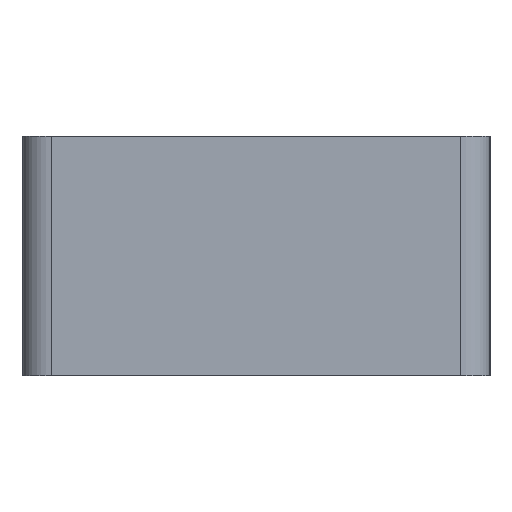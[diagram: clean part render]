
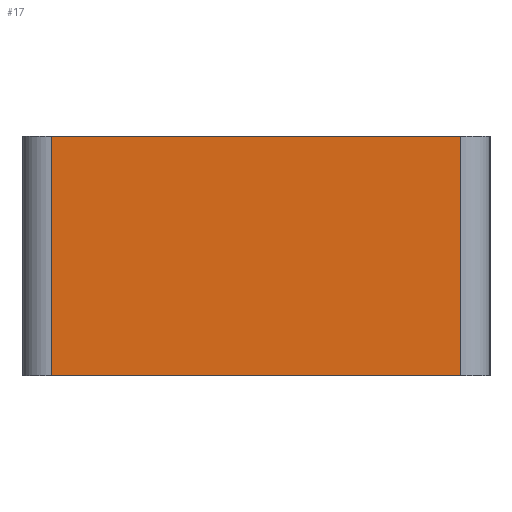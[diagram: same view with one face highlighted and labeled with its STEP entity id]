
A CAD part, left-side view. The second image highlights one B-rep face of the part: STEP entity #17.
In plain terms, the highlighted planar face has unit normal (-1, 0, 0).
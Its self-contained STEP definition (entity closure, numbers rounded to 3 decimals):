
#17 = ADVANCED_FACE('',(#18),#32,.F.);
#18 = FACE_BOUND('',#19,.F.);
#19 = EDGE_LOOP('',(#20,#55,#83,#111));
#20 = ORIENTED_EDGE('',*,*,#21,.F.);
#21 = EDGE_CURVE('',#22,#24,#26,.T.);
#22 = VERTEX_POINT('',#23);
#23 = CARTESIAN_POINT('',(-32.,-7.,4.1));
#24 = VERTEX_POINT('',#25);
#25 = CARTESIAN_POINT('',(-32.,7.,4.1));
#26 = SURFACE_CURVE('',#27,(#31,#43),.PCURVE_S1.);
#27 = LINE('',#28,#29);
#28 = CARTESIAN_POINT('',(-32.,-8.,4.1));
#29 = VECTOR('',#30,1.);
#30 = DIRECTION('',(0.,1.,0.));
#31 = PCURVE('',#32,#37);
#32 = PLANE('',#33);
#33 = AXIS2_PLACEMENT_3D('',#34,#35,#36);
#34 = CARTESIAN_POINT('',(-32.,-8.,-4.1));
#35 = DIRECTION('',(1.,0.,0.));
#36 = DIRECTION('',(0.,0.,1.));
#37 = DEFINITIONAL_REPRESENTATION('',(#38),#42);
#38 = LINE('',#39,#40);
#39 = CARTESIAN_POINT('',(8.2,0.));
#40 = VECTOR('',#41,1.);
#41 = DIRECTION('',(0.,-1.));
#42 = ( GEOMETRIC_REPRESENTATION_CONTEXT(2) 
PARAMETRIC_REPRESENTATION_CONTEXT() REPRESENTATION_CONTEXT('2D SPACE',''
  ) );
#43 = PCURVE('',#44,#49);
#44 = PLANE('',#45);
#45 = AXIS2_PLACEMENT_3D('',#46,#47,#48);
#46 = CARTESIAN_POINT('',(-32.,-8.,4.1));
#47 = DIRECTION('',(0.,0.,1.));
#48 = DIRECTION('',(1.,0.,0.));
#49 = DEFINITIONAL_REPRESENTATION('',(#50),#54);
#50 = LINE('',#51,#52);
#51 = CARTESIAN_POINT('',(0.,0.));
#52 = VECTOR('',#53,1.);
#53 = DIRECTION('',(0.,1.));
#54 = ( GEOMETRIC_REPRESENTATION_CONTEXT(2) 
PARAMETRIC_REPRESENTATION_CONTEXT() REPRESENTATION_CONTEXT('2D SPACE',''
  ) );
#55 = ORIENTED_EDGE('',*,*,#56,.F.);
#56 = EDGE_CURVE('',#57,#22,#59,.T.);
#57 = VERTEX_POINT('',#58);
#58 = CARTESIAN_POINT('',(-32.,-7.,-4.1));
#59 = SURFACE_CURVE('',#60,(#64,#71),.PCURVE_S1.);
#60 = LINE('',#61,#62);
#61 = CARTESIAN_POINT('',(-32.,-7.,-4.1));
#62 = VECTOR('',#63,1.);
#63 = DIRECTION('',(0.,0.,1.));
#64 = PCURVE('',#32,#65);
#65 = DEFINITIONAL_REPRESENTATION('',(#66),#70);
#66 = LINE('',#67,#68);
#67 = CARTESIAN_POINT('',(0.,-1.));
#68 = VECTOR('',#69,1.);
#69 = DIRECTION('',(1.,0.));
#70 = ( GEOMETRIC_REPRESENTATION_CONTEXT(2) 
PARAMETRIC_REPRESENTATION_CONTEXT() REPRESENTATION_CONTEXT('2D SPACE',''
  ) );
#71 = PCURVE('',#72,#77);
#72 = CYLINDRICAL_SURFACE('',#73,1.);
#73 = AXIS2_PLACEMENT_3D('',#74,#75,#76);
#74 = CARTESIAN_POINT('',(-31.,-7.,-4.1));
#75 = DIRECTION('',(0.,0.,1.));
#76 = DIRECTION('',(-1.,-0.,0.));
#77 = DEFINITIONAL_REPRESENTATION('',(#78),#82);
#78 = LINE('',#79,#80);
#79 = CARTESIAN_POINT('',(0.,0.));
#80 = VECTOR('',#81,1.);
#81 = DIRECTION('',(0.,1.));
#82 = ( GEOMETRIC_REPRESENTATION_CONTEXT(2) 
PARAMETRIC_REPRESENTATION_CONTEXT() REPRESENTATION_CONTEXT('2D SPACE',''
  ) );
#83 = ORIENTED_EDGE('',*,*,#84,.T.);
#84 = EDGE_CURVE('',#57,#85,#87,.T.);
#85 = VERTEX_POINT('',#86);
#86 = CARTESIAN_POINT('',(-32.,7.,-4.1));
#87 = SURFACE_CURVE('',#88,(#92,#99),.PCURVE_S1.);
#88 = LINE('',#89,#90);
#89 = CARTESIAN_POINT('',(-32.,-8.,-4.1));
#90 = VECTOR('',#91,1.);
#91 = DIRECTION('',(0.,1.,0.));
#92 = PCURVE('',#32,#93);
#93 = DEFINITIONAL_REPRESENTATION('',(#94),#98);
#94 = LINE('',#95,#96);
#95 = CARTESIAN_POINT('',(0.,0.));
#96 = VECTOR('',#97,1.);
#97 = DIRECTION('',(0.,-1.));
#98 = ( GEOMETRIC_REPRESENTATION_CONTEXT(2) 
PARAMETRIC_REPRESENTATION_CONTEXT() REPRESENTATION_CONTEXT('2D SPACE',''
  ) );
#99 = PCURVE('',#100,#105);
#100 = PLANE('',#101);
#101 = AXIS2_PLACEMENT_3D('',#102,#103,#104);
#102 = CARTESIAN_POINT('',(-32.,-8.,-4.1));
#103 = DIRECTION('',(0.,0.,1.));
#104 = DIRECTION('',(1.,0.,0.));
#105 = DEFINITIONAL_REPRESENTATION('',(#106),#110);
#106 = LINE('',#107,#108);
#107 = CARTESIAN_POINT('',(0.,0.));
#108 = VECTOR('',#109,1.);
#109 = DIRECTION('',(0.,1.));
#110 = ( GEOMETRIC_REPRESENTATION_CONTEXT(2) 
PARAMETRIC_REPRESENTATION_CONTEXT() REPRESENTATION_CONTEXT('2D SPACE',''
  ) );
#111 = ORIENTED_EDGE('',*,*,#112,.T.);
#112 = EDGE_CURVE('',#85,#24,#113,.T.);
#113 = SURFACE_CURVE('',#114,(#118,#125),.PCURVE_S1.);
#114 = LINE('',#115,#116);
#115 = CARTESIAN_POINT('',(-32.,7.,-4.1));
#116 = VECTOR('',#117,1.);
#117 = DIRECTION('',(0.,0.,1.));
#118 = PCURVE('',#32,#119);
#119 = DEFINITIONAL_REPRESENTATION('',(#120),#124);
#120 = LINE('',#121,#122);
#121 = CARTESIAN_POINT('',(0.,-15.));
#122 = VECTOR('',#123,1.);
#123 = DIRECTION('',(1.,0.));
#124 = ( GEOMETRIC_REPRESENTATION_CONTEXT(2) 
PARAMETRIC_REPRESENTATION_CONTEXT() REPRESENTATION_CONTEXT('2D SPACE',''
  ) );
#125 = PCURVE('',#126,#131);
#126 = CYLINDRICAL_SURFACE('',#127,1.);
#127 = AXIS2_PLACEMENT_3D('',#128,#129,#130);
#128 = CARTESIAN_POINT('',(-31.,7.,-4.1));
#129 = DIRECTION('',(0.,0.,1.));
#130 = DIRECTION('',(-1.,-0.,0.));
#131 = DEFINITIONAL_REPRESENTATION('',(#132),#136);
#132 = LINE('',#133,#134);
#133 = CARTESIAN_POINT('',(-0.,0.));
#134 = VECTOR('',#135,1.);
#135 = DIRECTION('',(-0.,1.));
#136 = ( GEOMETRIC_REPRESENTATION_CONTEXT(2) 
PARAMETRIC_REPRESENTATION_CONTEXT() REPRESENTATION_CONTEXT('2D SPACE',''
  ) );
